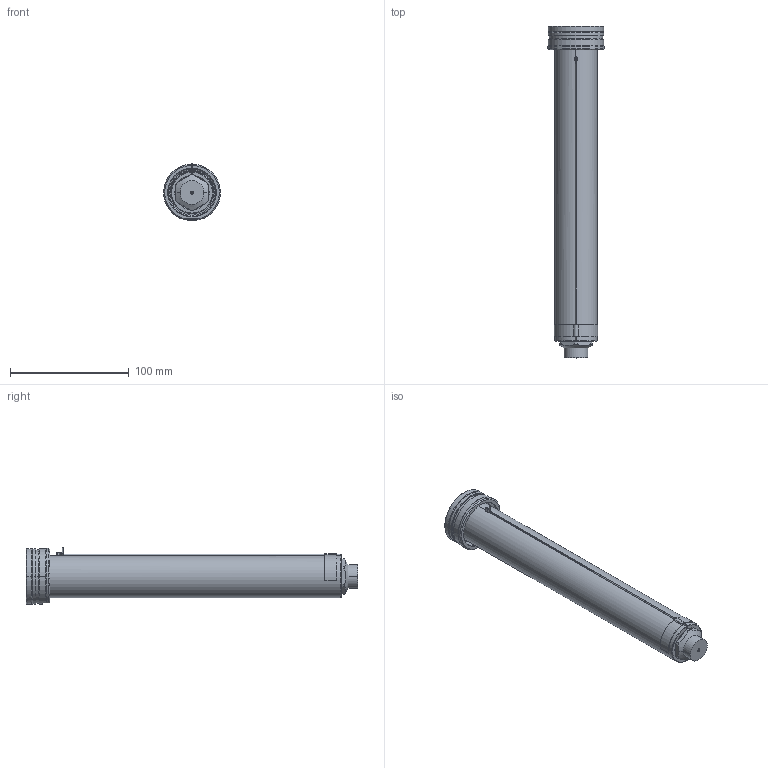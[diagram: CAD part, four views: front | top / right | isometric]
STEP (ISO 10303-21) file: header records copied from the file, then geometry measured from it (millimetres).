
FILE_DESCRIPTION((''),'2;1');
FILE_NAME('EO16_PG-FB_STD_260_SW','2024-02-19T11:42:14',('sundharh'),(''),'CREO PARAMETRIC BY PTC INC, 2023154','CREO PARAMETRIC BY PTC INC, 2023154','');
FILE_SCHEMA(('CONFIG_CONTROL_DESIGN'));
Length unit declared in the file: millimetre
Products named in the file (1): EO16_PG-FB_STD_260_SW
Bounding box: 47.97 x 280 x 48 mm (x, y, z)
Volume: 228651.3 mm3; surface area: 55444 mm2
Topology: 1 solids, 1 shells, 205 faces, 538 edges, 331 vertices
Faces by surface type: cylinder 81, plane 59, cone 41, torus 14, bspline 7, sphere 3
Entity records: 7579 total; most frequent: CARTESIAN_POINT 2429, DIRECTION 1139, ORIENTED_EDGE 1060, EDGE_CURVE 530, AXIS2_PLACEMENT_3D 475, VERTEX_POINT 331, CIRCLE 277, EDGE_LOOP 223
